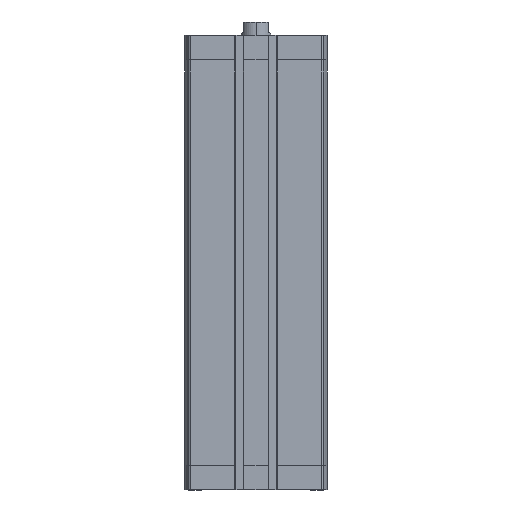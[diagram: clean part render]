
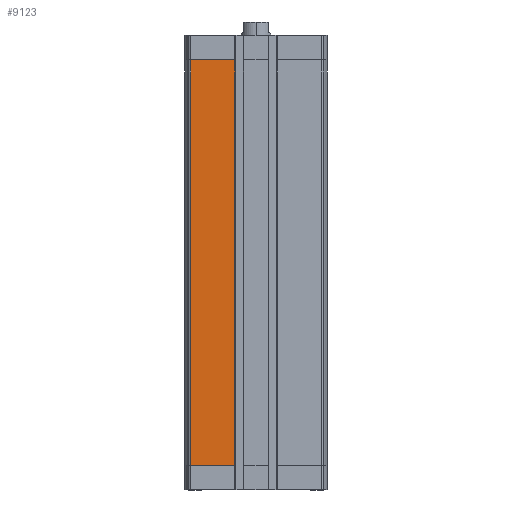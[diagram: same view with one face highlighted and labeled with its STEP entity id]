
A CAD part, left-side view. The second image highlights one B-rep face of the part: STEP entity #9123.
In plain terms, the highlighted planar face has unit normal (-1, 0, 0).
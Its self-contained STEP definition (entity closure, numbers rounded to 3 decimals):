
#353 = DIRECTION ( 'NONE',  ( -1., 0., 0. ) ) ;
#958 = VECTOR ( 'NONE', #3497, 1000. ) ;
#1034 = CARTESIAN_POINT ( 'NONE',  ( -47.5, 14.3, -287.5 ) ) ;
#1248 = EDGE_LOOP ( 'NONE', ( #11436, #10675, #13297, #12924 ) ) ;
#1567 = LINE ( 'NONE', #2653, #958 ) ;
#1691 = EDGE_CURVE ( 'NONE', #13182, #7904, #1567, .T. ) ;
#2653 = CARTESIAN_POINT ( 'NONE',  ( -47.5, 14.3, -287.5 ) ) ;
#2853 = DIRECTION ( 'NONE',  ( 0., 1., 0. ) ) ;
#3050 = DIRECTION ( 'NONE',  ( 0., -1., 0. ) ) ;
#3119 = CARTESIAN_POINT ( 'NONE',  ( -47.5, 43.743, -287.5 ) ) ;
#3497 = DIRECTION ( 'NONE',  ( 0., 0., 1. ) ) ;
#4279 = VECTOR ( 'NONE', #2853, 1000. ) ;
#4657 = LINE ( 'NONE', #8771, #4279 ) ;
#5080 = EDGE_CURVE ( 'NONE', #9855, #13693, #5320, .T. ) ;
#5320 = LINE ( 'NONE', #10147, #9626 ) ;
#5393 = VECTOR ( 'NONE', #3050, 1000. ) ;
#7904 = VERTEX_POINT ( 'NONE', #11641 ) ;
#7907 = CARTESIAN_POINT ( 'NONE',  ( -47.5, 43.743, -287.5 ) ) ;
#8753 = FACE_OUTER_BOUND ( 'NONE', #1248, .T. ) ;
#8771 = CARTESIAN_POINT ( 'NONE',  ( -47.5, 0., -16.5 ) ) ;
#8825 = DIRECTION ( 'NONE',  ( 0., 0., 1. ) ) ;
#9123 = ADVANCED_FACE ( 'NONE', ( #8753 ), #12302, .T. ) ;
#9626 = VECTOR ( 'NONE', #11320, 1000. ) ;
#9855 = VERTEX_POINT ( 'NONE', #13752 ) ;
#9945 = CARTESIAN_POINT ( 'NONE',  ( -47.5, 43.743, -287.5 ) ) ;
#10147 = CARTESIAN_POINT ( 'NONE',  ( -47.5, 43.743, -287.5 ) ) ;
#10675 = ORIENTED_EDGE ( 'NONE', *, *, #1691, .T. ) ;
#11320 = DIRECTION ( 'NONE',  ( 0., 0., -1. ) ) ;
#11436 = ORIENTED_EDGE ( 'NONE', *, *, #14405, .T. ) ;
#11641 = CARTESIAN_POINT ( 'NONE',  ( -47.5, 14.3, -16.5 ) ) ;
#12302 = PLANE ( 'NONE',  #14206 ) ;
#12924 = ORIENTED_EDGE ( 'NONE', *, *, #5080, .T. ) ;
#13182 = VERTEX_POINT ( 'NONE', #1034 ) ;
#13297 = ORIENTED_EDGE ( 'NONE', *, *, #13502, .T. ) ;
#13502 = EDGE_CURVE ( 'NONE', #7904, #9855, #4657, .T. ) ;
#13693 = VERTEX_POINT ( 'NONE', #3119 ) ;
#13752 = CARTESIAN_POINT ( 'NONE',  ( -47.5, 43.743, -16.5 ) ) ;
#14206 = AXIS2_PLACEMENT_3D ( 'NONE', #9945, #353, #8825 ) ;
#14405 = EDGE_CURVE ( 'NONE', #13693, #13182, #14988, .T. ) ;
#14988 = LINE ( 'NONE', #7907, #5393 ) ;
